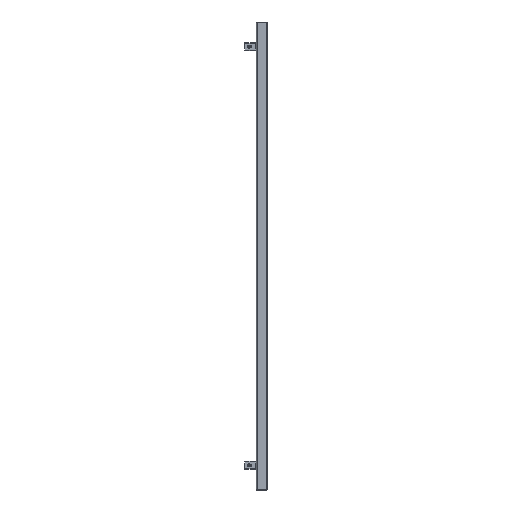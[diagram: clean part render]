
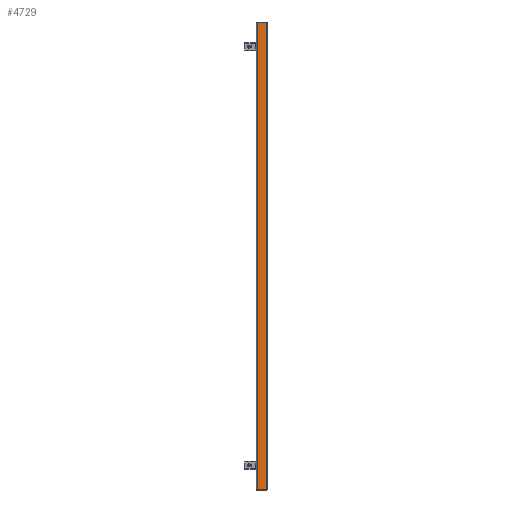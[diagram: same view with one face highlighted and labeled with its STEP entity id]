
A CAD part, left-side view. The second image highlights one B-rep face of the part: STEP entity #4729.
In plain terms, the highlighted planar face has unit normal (-1, 0, 0).
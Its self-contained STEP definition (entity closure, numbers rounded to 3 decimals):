
#4380=CARTESIAN_POINT('',(-140.0,-17.,1.5));
#4381=VERTEX_POINT('',#4380);
#4532=CARTESIAN_POINT('',(-140.0,17.,1.5));
#4533=VERTEX_POINT('',#4532);
#4550=CARTESIAN_POINT('',(-140.0,-17.,1.5));
#4551=DIRECTION('',(0.0,1.0,0.0));
#4552=VECTOR('',#4551,34.0);
#4553=LINE('',#4550,#4552);
#4554=EDGE_CURVE('',#4381,#4533,#4553,.T.);
#4699=CARTESIAN_POINT('',(-140.0,-17.,0.0));
#4700=DIRECTION('',(-1.0,0.0,0.0));
#4701=DIRECTION('',(0.0,0.0,1.0));
#4702=AXIS2_PLACEMENT_3D('',#4699,#4700,#4701);
#4703=PLANE('',#4702);
#4704=ORIENTED_EDGE('',*,*,#4554,.F.);
#4705=CARTESIAN_POINT('',(-140.0,-17.,1698.5));
#4706=VERTEX_POINT('',#4705);
#4707=CARTESIAN_POINT('',(-140.0,-17.,1.5));
#4708=DIRECTION('',(0.0,0.0,1.0));
#4709=VECTOR('',#4708,1697.0);
#4710=LINE('',#4707,#4709);
#4711=EDGE_CURVE('',#4381,#4706,#4710,.T.);
#4712=ORIENTED_EDGE('',*,*,#4711,.T.);
#4713=CARTESIAN_POINT('',(-140.0,17.,1698.5));
#4714=VERTEX_POINT('',#4713);
#4715=CARTESIAN_POINT('',(-140.0,17.,1698.5));
#4716=DIRECTION('',(0.0,-1.0,0.0));
#4717=VECTOR('',#4716,34.0);
#4718=LINE('',#4715,#4717);
#4719=EDGE_CURVE('',#4714,#4706,#4718,.T.);
#4720=ORIENTED_EDGE('',*,*,#4719,.F.);
#4721=CARTESIAN_POINT('',(-140.0,17.,1.5));
#4722=DIRECTION('',(0.0,0.0,1.0));
#4723=VECTOR('',#4722,1697.0);
#4724=LINE('',#4721,#4723);
#4725=EDGE_CURVE('',#4533,#4714,#4724,.T.);
#4726=ORIENTED_EDGE('',*,*,#4725,.F.);
#4727=EDGE_LOOP('',(#4704,#4712,#4720,#4726));
#4728=FACE_OUTER_BOUND('',#4727,.T.);
#4729=ADVANCED_FACE('',(#4728),#4703,.T.);
